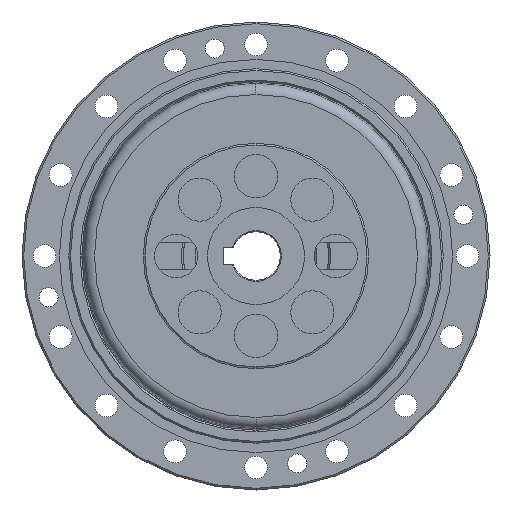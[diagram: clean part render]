
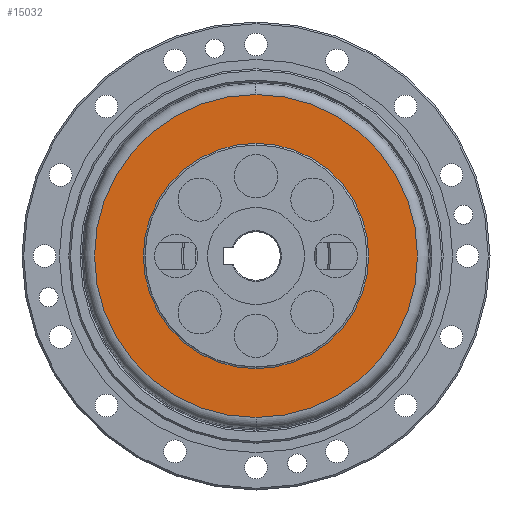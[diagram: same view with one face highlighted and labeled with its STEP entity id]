
A CAD part, left-side view. The second image highlights one B-rep face of the part: STEP entity #15032.
In plain terms, the highlighted planar face has unit normal (-1, 0, 0).
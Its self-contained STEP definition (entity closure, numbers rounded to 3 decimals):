
#437 = DIRECTION ( 'NONE',  ( 0., 0., -1. ) ) ;
#851 = DIRECTION ( 'NONE',  ( 0., 0., -1. ) ) ;
#1049 = DIRECTION ( 'NONE',  ( -1., 0., 0. ) ) ;
#1323 = VERTEX_POINT ( 'NONE', #3331 ) ;
#1494 = EDGE_LOOP ( 'NONE', ( #8922, #3730 ) ) ;
#2447 = VERTEX_POINT ( 'NONE', #4993 ) ;
#2728 = VERTEX_POINT ( 'NONE', #8621 ) ;
#2886 = EDGE_CURVE ( 'NONE', #2447, #5159, #12138, .T. ) ;
#3293 = CARTESIAN_POINT ( 'NONE',  ( 26.621, 0., 32.5 ) ) ;
#3331 = CARTESIAN_POINT ( 'NONE',  ( 26.621, 0., -46.58 ) ) ;
#3344 = CIRCLE ( 'NONE', #6075, 32.5 ) ;
#3347 = EDGE_CURVE ( 'NONE', #2728, #1323, #9281, .T. ) ;
#3730 = ORIENTED_EDGE ( 'NONE', *, *, #7362, .T. ) ;
#4225 = CARTESIAN_POINT ( 'NONE',  ( 26.621, 0., 0. ) ) ;
#4372 = FACE_BOUND ( 'NONE', #1494, .T. ) ;
#4640 = PLANE ( 'NONE',  #11773 ) ;
#4822 = ORIENTED_EDGE ( 'NONE', *, *, #6841, .F. ) ;
#4844 = CARTESIAN_POINT ( 'NONE',  ( 26.621, 0., 0. ) ) ;
#4993 = CARTESIAN_POINT ( 'NONE',  ( 26.621, 0., -32.5 ) ) ;
#5054 = AXIS2_PLACEMENT_3D ( 'NONE', #15328, #8109, #851 ) ;
#5159 = VERTEX_POINT ( 'NONE', #3293 ) ;
#5426 = DIRECTION ( 'NONE',  ( 0., 0., -1. ) ) ;
#5811 = AXIS2_PLACEMENT_3D ( 'NONE', #4844, #13299, #6057 ) ;
#6057 = DIRECTION ( 'NONE',  ( 0., 0., -1. ) ) ;
#6075 = AXIS2_PLACEMENT_3D ( 'NONE', #4225, #12673, #5426 ) ;
#6841 = EDGE_CURVE ( 'NONE', #1323, #2728, #9815, .T. ) ;
#7241 = AXIS2_PLACEMENT_3D ( 'NONE', #14907, #7676, #437 ) ;
#7362 = EDGE_CURVE ( 'NONE', #5159, #2447, #3344, .T. ) ;
#7587 = EDGE_LOOP ( 'NONE', ( #4822, #10460 ) ) ;
#7676 = DIRECTION ( 'NONE',  ( 1., 0., 0. ) ) ;
#8109 = DIRECTION ( 'NONE',  ( 1., 0., 0. ) ) ;
#8621 = CARTESIAN_POINT ( 'NONE',  ( 26.621, 0., 46.58 ) ) ;
#8922 = ORIENTED_EDGE ( 'NONE', *, *, #2886, .T. ) ;
#9281 = CIRCLE ( 'NONE', #5811, 46.58 ) ;
#9516 = DIRECTION ( 'NONE',  ( 0., 0., 1. ) ) ;
#9815 = CIRCLE ( 'NONE', #5054, 46.58 ) ;
#10427 = FACE_OUTER_BOUND ( 'NONE', #7587, .T. ) ;
#10460 = ORIENTED_EDGE ( 'NONE', *, *, #3347, .F. ) ;
#11773 = AXIS2_PLACEMENT_3D ( 'NONE', #14304, #1049, #9516 ) ;
#12138 = CIRCLE ( 'NONE', #7241, 32.5 ) ;
#12673 = DIRECTION ( 'NONE',  ( 1., 0., 0. ) ) ;
#13299 = DIRECTION ( 'NONE',  ( 1., 0., 0. ) ) ;
#14304 = CARTESIAN_POINT ( 'NONE',  ( 26.621, 32.5, 0. ) ) ;
#14907 = CARTESIAN_POINT ( 'NONE',  ( 26.621, 0., 0. ) ) ;
#15032 = ADVANCED_FACE ( 'NONE', ( #4372, #10427 ), #4640, .T. ) ;
#15328 = CARTESIAN_POINT ( 'NONE',  ( 26.621, 0., 0. ) ) ;
